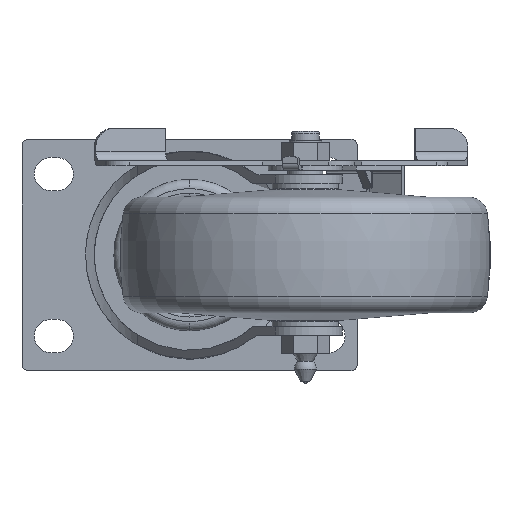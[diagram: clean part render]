
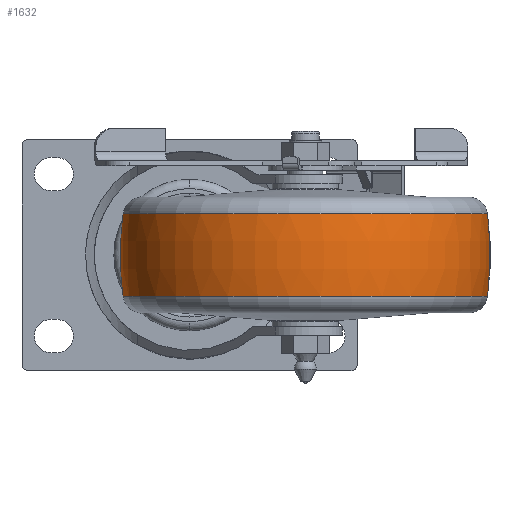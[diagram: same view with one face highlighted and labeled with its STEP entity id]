
A CAD part, front view. The second image highlights one B-rep face of the part: STEP entity #1632.
In plain terms, the highlighted toroidal (fillet/blend) face has major radius 55.569 mm and minor radius 106.369 mm.
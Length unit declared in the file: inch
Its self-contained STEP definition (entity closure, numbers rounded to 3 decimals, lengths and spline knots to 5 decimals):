
#171 = DIRECTION ( 'NONE',  ( -0.996, 0.089, 0. ) ) ;
#475 = CARTESIAN_POINT ( 'NONE',  ( 1.25, -4.48, 0. ) ) ;
#1435 = ORIENTED_EDGE ( 'NONE', *, *, #17278, .T. ) ;
#1632 = ADVANCED_FACE ( 'NONE', ( #8123 ), #18040, .T. ) ;
#2655 = VERTEX_POINT ( 'NONE', #7983 ) ;
#3233 = ORIENTED_EDGE ( 'NONE', *, *, #22482, .F. ) ;
#3335 = ORIENTED_EDGE ( 'NONE', *, *, #22369, .T. ) ;
#5407 = CIRCLE ( 'NONE', #22754, 4.18776 ) ;
#5657 = CARTESIAN_POINT ( 'NONE',  ( 3.42916, -4.67382, 0. ) ) ;
#6600 = VERTEX_POINT ( 'NONE', #15598 ) ;
#7474 = AXIS2_PLACEMENT_3D ( 'NONE', #10879, #14430, #171 ) ;
#7983 = CARTESIAN_POINT ( 'NONE',  ( 3.21838, -4.65507, -0.44632 ) ) ;
#8123 = FACE_OUTER_BOUND ( 'NONE', #13317, .T. ) ;
#8346 = VERTEX_POINT ( 'NONE', #13187 ) ;
#9259 = DIRECTION ( 'NONE',  ( 0., 0., 1. ) ) ;
#9781 = DIRECTION ( 'NONE',  ( -0.996, 0.089, 0. ) ) ;
#10388 = DIRECTION ( 'NONE',  ( 0.089, 0.996, 0. ) ) ;
#10795 = CARTESIAN_POINT ( 'NONE',  ( 1.25, -4.48, -0.44632 ) ) ;
#10879 = CARTESIAN_POINT ( 'NONE',  ( 1.25, -4.48, 0.44632 ) ) ;
#11040 = DIRECTION ( 'NONE',  ( 0.996, -0.089, 0. ) ) ;
#12280 = CIRCLE ( 'NONE', #7474, 1.97615 ) ;
#12986 = VERTEX_POINT ( 'NONE', #19069 ) ;
#13187 = CARTESIAN_POINT ( 'NONE',  ( 3.21838, -4.65507, 0.44632 ) ) ;
#13317 = EDGE_LOOP ( 'NONE', ( #3233, #1435, #3335, #22866 ) ) ;
#13979 = AXIS2_PLACEMENT_3D ( 'NONE', #5657, #10388, #9781 ) ;
#14430 = DIRECTION ( 'NONE',  ( 0., 0., -1. ) ) ;
#15598 = CARTESIAN_POINT ( 'NONE',  ( -0.71838, -4.30493, -0.44632 ) ) ;
#17278 = EDGE_CURVE ( 'NONE', #6600, #2655, #17497, .T. ) ;
#17497 = CIRCLE ( 'NONE', #20378, 1.97615 ) ;
#17607 = DIRECTION ( 'NONE',  ( 0.996, -0.089, 0. ) ) ;
#18040 = TOROIDAL_SURFACE ( 'NONE', #20397, -2.18776, 4.18776 ) ;
#19069 = CARTESIAN_POINT ( 'NONE',  ( -0.71838, -4.30493, 0.44632 ) ) ;
#19423 = CARTESIAN_POINT ( 'NONE',  ( -0.92916, -4.28618, 0. ) ) ;
#20022 = DIRECTION ( 'NONE',  ( 0.996, -0.089, 0. ) ) ;
#20378 = AXIS2_PLACEMENT_3D ( 'NONE', #10795, #9259, #11040 ) ;
#20397 = AXIS2_PLACEMENT_3D ( 'NONE', #475, #21720, #20022 ) ;
#21208 = DIRECTION ( 'NONE',  ( -0.089, -0.996, 0. ) ) ;
#21720 = DIRECTION ( 'NONE',  ( 0., 0., 1. ) ) ;
#21984 = CIRCLE ( 'NONE', #13979, 4.18776 ) ;
#22098 = EDGE_CURVE ( 'NONE', #8346, #12986, #12280, .T. ) ;
#22369 = EDGE_CURVE ( 'NONE', #2655, #8346, #5407, .T. ) ;
#22482 = EDGE_CURVE ( 'NONE', #6600, #12986, #21984, .T. ) ;
#22754 = AXIS2_PLACEMENT_3D ( 'NONE', #19423, #21208, #17607 ) ;
#22866 = ORIENTED_EDGE ( 'NONE', *, *, #22098, .T. ) ;
